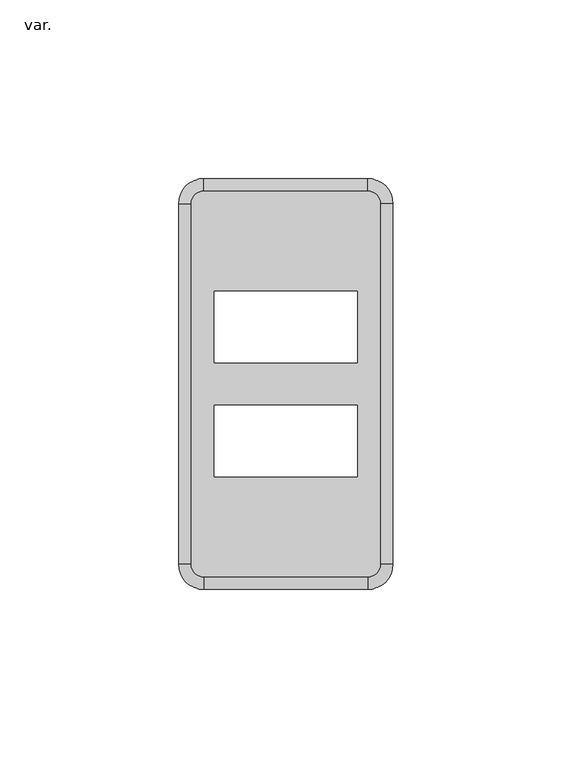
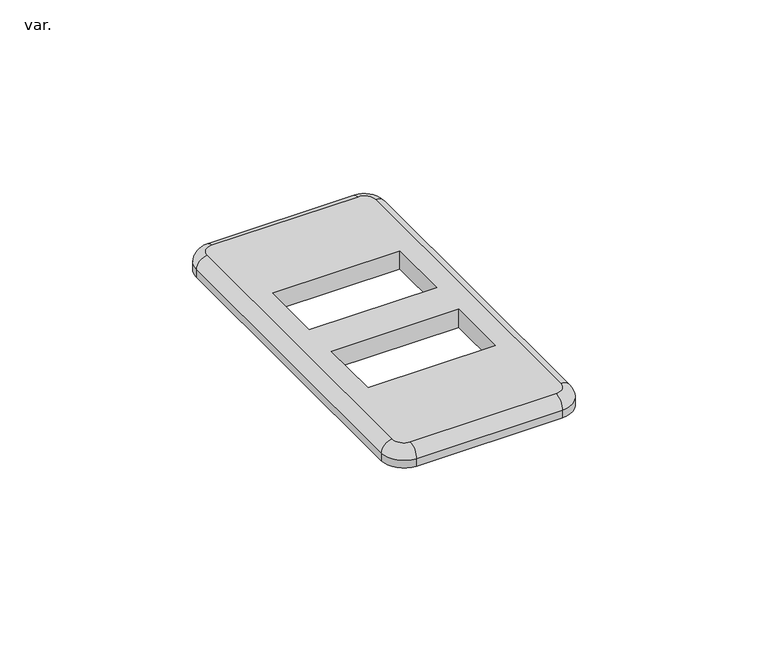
"""IFC4 building model written with IfcOpenShell, lengths in millimetres: pipe fitting geometry, AmancoWavin_ConexõesdoConduite_LinhaEletricaeZNãoUsarElectroAmancoTampa2TSeparadas : var.."""

import ifcopenshell
import ifcopenshell.guid

model = None  # the IFC model being written
_history = None  # IfcOwnerHistory: only IFC2X3 demands one
_inside = {}  # id of a spatial element -> (the spatial element, [elements in it])
_under = {}  # id of a project, library or spatial element -> (it, [spatial elements below it])
_declared = {}  # id of a project -> (the project, [libraries it declares])
_typed = {}  # id of a type object -> (the type object, [elements of that type])
_made_of = {}  # id of a material, layer set ... -> (it, [elements and type objects made of it])


def new_model(schema):
    """Start an empty IFC model of exactly this schema.

    Asked for "IFC4X3", IfcOpenShell would pick the latest addendum, in which some entities
    have other attributes; the version numbers below select the first issue.
    IFC2X3 requires an IfcOwnerHistory on every rooted entity: one is made here for all.
    """
    global model, _history
    if schema == "IFC4X3":
        model = ifcopenshell.file(schema_version=(4, 3, 0, 0))
    else:
        model = ifcopenshell.file(schema=schema)
    _inside.clear()
    _under.clear()
    _declared.clear()
    _typed.clear()
    _made_of.clear()
    _history = None
    if model.schema == "IFC2X3":
        org = make("IfcOrganization", Name="unknown")
        user = make(
            "IfcPersonAndOrganization",
            ThePerson=make("IfcPerson", FamilyName="unknown"),
            TheOrganization=org,
        )
        app = make(
            "IfcApplication",
            ApplicationDeveloper=org,
            Version="unknown",
            ApplicationFullName="unknown",
            ApplicationIdentifier="unknown",
        )
        _history = make(
            "IfcOwnerHistory",
            OwningUser=user,
            OwningApplication=app,
            ChangeAction="ADDED",
            CreationDate=0,
        )
    return model


def make(cls, **values):
    """One entity of the class cls with the attributes given. An attribute that is None is left unset."""
    return model.create_entity(
        cls, **{name: value for name, value in values.items() if value is not None}
    )


def rooted(cls, **values):
    """An entity with a GlobalId (a new one), such as an element, a storey or a relation."""
    return make(cls, GlobalId=ifcopenshell.guid.new(), OwnerHistory=_history, **values)


def si_unit(unit_type, name, prefix=None):
    """IfcSIUnit, for example si_unit("LENGTHUNIT", "METRE", prefix="MILLI")."""
    return make("IfcSIUnit", UnitType=unit_type, Prefix=prefix, Name=name)


def assignment(units):
    """IfcUnitAssignment: the units of a project."""
    return None if units is None else make("IfcUnitAssignment", Units=units)


def point(xyz):
    """IfcCartesianPoint."""
    return None if xyz is None else make("IfcCartesianPoint", Coordinates=xyz)


def direction(xyz):
    """IfcDirection."""
    return None if xyz is None else make("IfcDirection", DirectionRatios=xyz)


def frame(location, z_axis=None, x_axis=None):
    """IfcAxis2Placement3D, a coordinate frame: its origin and axes. An axis left out is left unset."""
    return make(
        "IfcAxis2Placement3D",
        Location=point(location),
        Axis=direction(z_axis),
        RefDirection=direction(x_axis),
    )


def origin():
    """The frame at (0, 0, 0) with its axes left unset."""
    return frame((0.0, 0.0, 0.0))


def place(relative_to, where):
    """IfcLocalPlacement: puts the frame where relative to a parent placement (None: the world)."""
    return make(
        "IfcLocalPlacement", PlacementRelTo=relative_to, RelativePlacement=where
    )


def context(
    kind, dimensions, precision=None, world=None, true_north=None, identifier=None
):
    """IfcGeometricRepresentationContext, for example the 3D "Model" context."""
    return make(
        "IfcGeometricRepresentationContext",
        ContextIdentifier=identifier,
        ContextType=kind,
        CoordinateSpaceDimension=dimensions,
        Precision=precision,
        WorldCoordinateSystem=world,
        TrueNorth=true_north,
    )


def project(units=None, contexts=None):
    """IfcProject with its units and contexts."""
    return rooted(
        "IfcProject",
        Name="project",
        RepresentationContexts=contexts,
        UnitsInContext=assignment(units),
    )


def spatial(cls, under=None, at=None, **own):
    """A site, building, storey or space (cls), placed at a placement, below another one or the project."""
    s = rooted(cls, ObjectPlacement=at, **own)
    if under is not None:
        _under.setdefault(under.id(), (under, []))[1].append(s)
    return s


def circle_curve(where, radius):
    """IfcCircle in the frame where."""
    return make("IfcCircle", Position=where, Radius=radius)


def ellipse_curve(where, semi_axis1, semi_axis2):
    """IfcEllipse in the frame where."""
    return make(
        "IfcEllipse", Position=where, SemiAxis1=semi_axis1, SemiAxis2=semi_axis2
    )


def trimmed(basis, trim1, trim2, sense, master):
    """IfcTrimmedCurve: the piece of a basis curve between two trims."""
    return make(
        "IfcTrimmedCurve",
        BasisCurve=basis,
        Trim1=trim1,
        Trim2=trim2,
        SenseAgreement=sense,
        MasterRepresentation=master,
    )


def shape(context_of_items, identifier, shape_type, items):
    """IfcShapeRepresentation: the items that make up one representation, for example the "Body"."""
    return make(
        "IfcShapeRepresentation",
        ContextOfItems=context_of_items,
        RepresentationIdentifier=identifier,
        RepresentationType=shape_type,
        Items=items,
    )


def source(mapping_origin, context_of_items, identifier, shape_type, items):
    """IfcRepresentationMap: a shape defined once, which mapped items show again and again."""
    return make(
        "IfcRepresentationMap",
        MappingOrigin=mapping_origin,
        MappedRepresentation=shape(context_of_items, identifier, shape_type, items),
    )


def transform(
    local_origin,
    x_axis=None,
    y_axis=None,
    z_axis=None,
    scale=None,
    scale2=None,
    scale3=None,
    uniform=True,
):
    """IfcCartesianTransformationOperator3D, or its non-uniform kind. x_axis, y_axis, z_axis: its Axis1, 2, 3."""
    if uniform:
        return make(
            "IfcCartesianTransformationOperator3D",
            Axis1=direction(x_axis),
            Axis2=direction(y_axis),
            LocalOrigin=point(local_origin),
            Scale=scale,
            Axis3=direction(z_axis),
        )
    return make(
        "IfcCartesianTransformationOperator3DnonUniform",
        Axis1=direction(x_axis),
        Axis2=direction(y_axis),
        LocalOrigin=point(local_origin),
        Scale=scale,
        Axis3=direction(z_axis),
        Scale2=scale2,
        Scale3=scale3,
    )


def mapped(mapping_source, mapping_target):
    """IfcMappedItem: shows the shape of a source again, moved by a transform."""
    return make(
        "IfcMappedItem", MappingSource=mapping_source, MappingTarget=mapping_target
    )


def made_of(thing, what):
    """Note that an element or type object is made of a material, layer set ...; save() writes the relation."""
    if what is not None:
        _made_of.setdefault(what.id(), (what, []))[1].append(thing)
    return thing


def element(
    cls,
    number,
    at=None,
    inside=None,
    cuts=None,
    type_object=None,
    material=None,
    context=None,
    identifier="Body",
    shape_type=None,
    held_by="IfcProductDefinitionShape",
    body=None,
    shapes=None,
    **own,
):
    """One element of the class cls, such as IfcWall. Its Tag is "e" and its number.

    at: its placement. inside: the storey or other place that contains it. cuts: it is an
    opening in that element (IfcRelVoidsElement). A single representation is given by context,
    identifier, shape_type and body (its items); several are given by shapes. held_by: the class
    of the entity that holds the representations. save() writes the other relations.
    """
    e = rooted(cls, Tag="e%d" % number, ObjectPlacement=at, **own)
    if body is not None:
        shapes = [shape(context, identifier, shape_type, body)]
    if shapes is not None:
        e.Representation = make(held_by, Representations=shapes)
    if inside is not None:
        _inside.setdefault(inside.id(), (inside, []))[1].append(e)
    if cuts is not None:
        rooted(
            "IfcRelVoidsElement", RelatingBuildingElement=cuts, RelatedOpeningElement=e
        )
    if type_object is not None:
        _typed.setdefault(type_object.id(), (type_object, []))[1].append(e)
    return made_of(e, material)


def aggregate(whole, parts):
    """IfcRelAggregates: a whole, such as a stair, and the parts it consists of."""
    return rooted("IfcRelAggregates", RelatingObject=whole, RelatedObjects=parts)


def save(model, path):
    """Write the relations noted so far, then the file.

    IfcRelAggregates (storeys below a building ...), IfcRelContainedInSpatialStructure (elements
    in a storey), IfcRelDefinesByType, IfcRelAssociatesMaterial and IfcRelDeclares: one each for
    every whole, place, type object, material and project.
    """
    for whole, parts in _under.values():
        aggregate(whole, parts)
    for where, things in _inside.values():
        rooted(
            "IfcRelContainedInSpatialStructure",
            RelatedElements=things,
            RelatingStructure=where,
        )
    for kind, things in _typed.values():
        rooted("IfcRelDefinesByType", RelatedObjects=things, RelatingType=kind)
    for what, things in _made_of.values():
        rooted("IfcRelAssociatesMaterial", RelatedObjects=things, RelatingMaterial=what)
    for by, libraries in _declared.values():
        rooted("IfcRelDeclares", RelatingContext=by, RelatedDefinitions=libraries)
    model.write(path)


def plane_surface(at):
    """IfcPlane: the flat surface through the origin of the frame at, square to its z axis."""
    return make("IfcPlane", Position=at)


def cylinder_surface(at, radius):
    """IfcCylindricalSurface: all points at the distance radius from the z axis of the frame at."""
    return make("IfcCylindricalSurface", Position=at, Radius=radius)


def revolved_surface(curve, axis_point, axis_direction):
    """IfcSurfaceOfRevolution: the curve turned about the line through axis_point along axis_direction."""
    return make(
        "IfcSurfaceOfRevolution",
        SweptCurve=make("IfcArbitraryOpenProfileDef", ProfileType="CURVE", Curve=curve),
        AxisPosition=make("IfcAxis1Placement", Location=point(axis_point), Axis=direction(axis_direction)),
    )


def advanced_brep(points, edges, surfaces, faces):
    """IfcAdvancedBrep: a solid bounded by faces that lie on surfaces and meet in shared edges.

    An edge is (start, end): straight between two places in points (the first is 0);
    or (start, end, curve); or (start, end, curve, False) where it runs against its curve.
    A face is (place in surfaces, loops), or (place, loops, False) where it looks against
    its surface's normal. A loop lists edges by number (the first is 1), with a minus sign
    where the edge is run from its end to its start. The first loop is the outer one.
    """
    corners = [point(p) for p in points]
    vertices = [make("IfcVertexPoint", VertexGeometry=c) for c in corners]
    made = []
    for start, end, *more in edges:
        made.append(
            make(
                "IfcEdgeCurve",
                EdgeStart=vertices[start],
                EdgeEnd=vertices[end],
                EdgeGeometry=more[0] if more else make("IfcPolyline", Points=[corners[start], corners[end]]),
                SameSense=more[1] if len(more) > 1 else True,
            )
        )
    hull = []
    for where, loops, *sense in faces:
        bounds = []
        for j, loop in enumerate(loops):
            ring = [make("IfcOrientedEdge", EdgeElement=made[abs(k) - 1], Orientation=k > 0) for k in loop]
            bounds.append(
                make(
                    "IfcFaceOuterBound" if j == 0 else "IfcFaceBound",
                    Bound=make("IfcEdgeLoop", EdgeList=ring),
                    Orientation=True,
                )
            )
        hull.append(make("IfcAdvancedFace", Bounds=bounds, FaceSurface=surfaces[where], SameSense=sense[0] if sense else True))
    return make("IfcAdvancedBrep", Outer=make("IfcClosedShell", CfsFaces=hull))


def var_3d4e0ce0(model_context):
    return source(origin(), model_context, "Body", "AdvancedBrep", [
        advanced_brep(
        [(-26.5, -50.5, 6.0), (-23.0, -54.0, 6.0), (23.0, -54.0, 6.0), (26.5, -50.5, 6.0), (26.5, 50.5, 6.0), (23.0, 54.0, 6.0), (-23.0, 54.0, 6.0), (-26.5, 50.5, 6.0), (20.0, 26.0, 6.0), (20.0, 6.0, 6.0), (-20.0, 6.0, 6.0), (-20.0, 26.0, 6.0), (20.0, -6.0, 6.0), (20.0, -26.0, 6.0), (-20.0, -26.0, 6.0), (-20.0, -6.0, 6.0), (23.0, 57.5, 0.0), (30.0, 50.5, 0.0), (30.0, -50.5, 0.0), (23.0, -57.5, 0.0), (-23.0, -57.5, 0.0), (-30.0, -50.5, 0.0), (-30.0, 50.5, 0.0), (-23.0, 57.5, 0.0), (20.0, 26.0, 0.0), (-20.0, 26.0, 0.0), (-20.0, 6.0, 0.0), (20.0, 6.0, 0.0), (20.0, -6.0, 0.0), (-20.0, -6.0, 0.0), (-20.0, -26.0, 0.0), (20.0, -26.0, 0.0), (-23.0, 57.5, 2.5), (23.0, 57.5, 2.5), (-30.0, 50.5, 2.5000018), (-30.0, -50.5, 2.5000018), (-23.0, -57.5, 2.5000018), (23.0, -57.5, 2.5), (30.0, -50.5, 2.5000018), (30.0, 50.5, 2.5)],
        [
            (0, 1, circle_curve(frame((-23.0, -50.5, 6.0), z_axis=(0.0, 0.0, 1.0), x_axis=(-1.0, 0.0, 0.0)), 3.5)),
            (1, 2),
            (2, 3, circle_curve(frame((23.0, -50.5, 6.0), z_axis=(0.0, 0.0, 1.0), x_axis=(0.0, -1.0, 0.0)), 3.5)),
            (3, 4),
            (4, 5, circle_curve(frame((23.0, 50.5, 6.0), z_axis=(0.0, 0.0, 1.0), x_axis=(1.0, 0.0, 0.0)), 3.5)),
            (5, 6),
            (6, 7, circle_curve(frame((-23.0, 50.5, 6.0), z_axis=(0.0, 0.0, 1.0), x_axis=(0.0, 1.0, 0.0)), 3.5)),
            (7, 0),
            (8, 9),
            (9, 10),
            (10, 11),
            (11, 8),
            (12, 13),
            (13, 14),
            (14, 15),
            (15, 12),
            (16, 17, circle_curve(frame((23.0, 50.5, 0.0), z_axis=(0.0, 0.0, -1.0), x_axis=(1.0, 0.0, 0.0)), 7.0)),
            (17, 18),
            (18, 19, circle_curve(frame((23.0, -50.5, 0.0), z_axis=(0.0, 0.0, -1.0), x_axis=(1.0, 0.0, 0.0)), 7.0)),
            (19, 20),
            (20, 21, circle_curve(frame((-23.0, -50.5, 0.0), z_axis=(0.0, 0.0, -1.0), x_axis=(1.0, 0.0, 0.0)), 7.0)),
            (21, 22),
            (22, 23, circle_curve(frame((-23.0, 50.5, 0.0), z_axis=(0.0, 0.0, -1.0), x_axis=(1.0, 0.0, 0.0)), 7.0)),
            (23, 16),
            (24, 25),
            (25, 26),
            (26, 27),
            (27, 24),
            (28, 29),
            (29, 30),
            (30, 31),
            (31, 28),
            (23, 32),
            (32, 33),
            (33, 16),
            (22, 34),
            (34, 32, circle_curve(frame((-23.0, 50.5, 2.5), z_axis=(0.0, 0.0, -1.0), x_axis=(1.0, 0.0, 0.0)), 7.0)),
            (21, 35),
            (35, 34),
            (20, 36),
            (36, 35, circle_curve(frame((-23.0, -50.5, 2.5), z_axis=(0.0, 0.0, -1.0), x_axis=(1.0, 0.0, 0.0)), 7.0)),
            (19, 37),
            (37, 36),
            (18, 38),
            (38, 37, circle_curve(frame((23.0, -50.5, 2.5), z_axis=(0.0, 0.0, -1.0), x_axis=(1.0, 0.0, 0.0)), 7.0)),
            (17, 39),
            (39, 38),
            (33, 39, circle_curve(frame((23.0, 50.5, 2.5), z_axis=(0.0, 0.0, -1.0), x_axis=(1.0, 0.0, 0.0)), 7.0)),
            (36, 1, circle_curve(frame((-23.0, -54.0, 2.5), z_axis=(-1.0, 0.0, 0.0), x_axis=(0.0, 1.0, 0.0)), 3.5)),
            (0, 35, circle_curve(frame((-26.5, -50.5, 2.5), z_axis=(0.0, -1.0, 0.0), x_axis=(1.0, 0.0, 0.0)), 3.5)),
            (37, 2, circle_curve(frame((23.0, -54.0, 2.5), z_axis=(-1.0, 0.0, 0.0), x_axis=(0.0, 1.0, 0.0)), 3.5)),
            (38, 3, circle_curve(frame((26.5, -50.5, 2.5), z_axis=(0.0, -1.0, 0.0), x_axis=(-1.0, 0.0, 0.0)), 3.5)),
            (39, 4, circle_curve(frame((26.5, 50.5, 2.5), z_axis=(0.0, -1.0, 0.0), x_axis=(-1.0, 0.0, 0.0)), 3.5)),
            (33, 5, circle_curve(frame((23.0, 54.0, 2.5), z_axis=(1.0, 0.0, 0.0), x_axis=(0.0, -1.0, 0.0)), 3.5)),
            (32, 6, circle_curve(frame((-23.0, 54.0, 2.5), z_axis=(1.0, 0.0, 0.0), x_axis=(0.0, -1.0, 0.0)), 3.5)),
            (34, 7, circle_curve(frame((-26.5, 50.5, 2.5), z_axis=(0.0, 1.0, 0.0), x_axis=(1.0, 0.0, 0.0)), 3.5)),
            (8, 24),
            (27, 9),
            (26, 10),
            (25, 11),
            (12, 28),
            (31, 13),
            (30, 14),
            (29, 15),
        ],
        [
            plane_surface(frame((-23.0, 57.5, 6.0), z_axis=(0.0, 0.0, 1.0), x_axis=(-1.0, 0.0, 0.0))),
            plane_surface(frame((-23.0, 57.5, 0.0), z_axis=(0.0, 0.0, -1.0), x_axis=(1.0, 0.0, 0.0))),
            plane_surface(frame((23.0, 57.5, 6.0), z_axis=(0.0, 1.0, 0.0), x_axis=(0.0, 0.0, -1.0))),
            cylinder_surface(frame((-23.0, 50.5, 0.0), z_axis=(0.0, 0.0, 1.0), x_axis=(1.0, 0.0, 0.0)), 7.0),
            plane_surface(frame((-30.0, 50.5, 6.0), z_axis=(-1.0, 0.0, 0.0), x_axis=(0.0, 0.0, -1.0))),
            cylinder_surface(frame((-23.0, -50.5, 0.0), z_axis=(0.0, 0.0, 1.0), x_axis=(1.0, 0.0, 0.0)), 7.0),
            plane_surface(frame((-23.0, -57.5, 6.0), z_axis=(0.0, -1.0, 0.0), x_axis=(0.0, 0.0, -1.0))),
            cylinder_surface(frame((23.0, -50.5, 0.0), z_axis=(0.0, 0.0, 1.0), x_axis=(1.0, 0.0, 0.0)), 7.0),
            plane_surface(frame((30.0, -50.5, 6.0), z_axis=(1.0, 0.0, 0.0), x_axis=(0.0, 0.0, -1.0))),
            cylinder_surface(frame((23.0, 50.5, 0.0), z_axis=(0.0, 0.0, 1.0), x_axis=(1.0, 0.0, 0.0)), 7.0),
            revolved_surface(trimmed(ellipse_curve(frame((-26.5, -50.5, 2.5), z_axis=(0.0, 1.0, 0.0), x_axis=(1.0, 0.0, 0.0)), 3.5, 3.5), [point((-30.0, -50.5, 2.5))], [point((-26.5, -50.5, 6.0))], True, "CARTESIAN"), (-23.0, -50.5, 6.0), (0.0, 0.0, 1.0)),
            cylinder_surface(frame((-23.0, -54.0, 2.5), z_axis=(1.0, 0.0, 0.0), x_axis=(0.0, 1.0, 0.0)), 3.5),
            revolved_surface(trimmed(ellipse_curve(frame((23.0, -54.0, 2.5), z_axis=(-1.0, 0.0, 0.0), x_axis=(0.0, 1.0, 0.0)), 3.5, 3.5), [point((23.0, -57.5, 2.5))], [point((23.0, -54.0, 6.0))], True, "CARTESIAN"), (23.0, -50.5, 6.0), (0.0, 0.0, 1.0)),
            cylinder_surface(frame((26.5, -50.5, 2.5), z_axis=(0.0, 1.0, 0.0), x_axis=(-1.0, 0.0, 0.0)), 3.5),
            revolved_surface(trimmed(ellipse_curve(frame((26.5, 50.5, 2.5), z_axis=(0.0, -1.0, 0.0), x_axis=(-1.0, 0.0, 0.0)), 3.5, 3.5), [point((30.0, 50.5, 2.5))], [point((26.5, 50.5, 6.0))], True, "CARTESIAN"), (23.0, 50.5, 6.0), (0.0, 0.0, 1.0)),
            cylinder_surface(frame((23.0, 54.0, 2.5), z_axis=(-1.0, 0.0, 0.0), x_axis=(0.0, -1.0, 0.0)), 3.5),
            revolved_surface(trimmed(ellipse_curve(frame((-23.0, 54.0, 2.5), z_axis=(1.0, 0.0, 0.0), x_axis=(0.0, -1.0, 0.0)), 3.5, 3.5), [point((-23.0, 57.5, 2.5))], [point((-23.0, 54.0, 6.0))], True, "CARTESIAN"), (-23.0, 50.5, 6.0), (0.0, 0.0, 1.0)),
            cylinder_surface(frame((-26.5, 50.5, 2.5), z_axis=(0.0, -1.0, 0.0), x_axis=(1.0, 0.0, 0.0)), 3.5),
            plane_surface(frame((20.0, 26.0, 6.0), z_axis=(-1.0, 0.0, 0.0), x_axis=(0.0, 0.0, -1.0))),
            plane_surface(frame((20.0, 6.0, 6.0), z_axis=(0.0, 1.0, 0.0), x_axis=(0.0, 0.0, -1.0))),
            plane_surface(frame((-20.0, 6.0, 6.0), z_axis=(1.0, 0.0, 0.0), x_axis=(0.0, 0.0, -1.0))),
            plane_surface(frame((-20.0, 26.0, 6.0), z_axis=(0.0, -1.0, 0.0), x_axis=(0.0, 0.0, -1.0))),
            plane_surface(frame((20.0, -6.0, 6.0), z_axis=(-1.0, 0.0, 0.0), x_axis=(0.0, 0.0, -1.0))),
            plane_surface(frame((20.0, -26.0, 6.0), z_axis=(0.0, 1.0, 0.0), x_axis=(0.0, 0.0, -1.0))),
            plane_surface(frame((-20.0, -26.0, 6.0), z_axis=(1.0, 0.0, 0.0), x_axis=(0.0, 0.0, -1.0))),
            plane_surface(frame((-20.0, -6.0, 6.0), z_axis=(0.0, -1.0, 0.0), x_axis=(0.0, 0.0, -1.0))),
        ],
        [
            (0, [[1, 2, 3, 4, 5, 6, 7, 8], [9, 10, 11, 12], [13, 14, 15, 16]]),
            (1, [[17, 18, 19, 20, 21, 22, 23, 24], [25, 26, 27, 28], [29, 30, 31, 32]]),
            (2, [[-24, 33, 34, 35]]),
            (3, [[-23, 36, 37, -33]]),
            (4, [[-22, 38, 39, -36]]),
            (5, [[-21, 40, 41, -38]]),
            (6, [[-20, 42, 43, -40]]),
            (7, [[-19, 44, 45, -42]]),
            (8, [[-18, 46, 47, -44]]),
            (9, [[-17, -35, 48, -46]]),
            (10, [[49, -1, 50, -41]]),
            (11, [[-49, -43, 51, -2]]),
            (12, [[-51, -45, 52, -3]]),
            (13, [[-52, -47, 53, -4]]),
            (14, [[-53, -48, 54, -5]]),
            (15, [[-54, -34, 55, -6]]),
            (16, [[-55, -37, 56, -7]]),
            (17, [[-50, -8, -56, -39]]),
            (18, [[-9, 57, -28, 58]]),
            (19, [[-10, -58, -27, 59]]),
            (20, [[-11, -59, -26, 60]]),
            (21, [[-12, -60, -25, -57]]),
            (22, [[-13, 61, -32, 62]]),
            (23, [[-14, -62, -31, 63]]),
            (24, [[-15, -63, -30, 64]]),
            (25, [[-16, -64, -29, -61]]),
        ],
    ),
    ])


if __name__ == "__main__":
    model = new_model("IFC4")
    model_context = context("Model", 3, world=origin())
    ifc_project = project(units=[si_unit("LENGTHUNIT", "METRE", prefix="MILLI")], contexts=[model_context])
    site = spatial("IfcSite", under=ifc_project)
    building = spatial("IfcBuilding", under=site)
    placement = place(None, origin())
    var_shape = var_3d4e0ce0(model_context)
    element("IfcPipeFitting", 1, ObjectType="AmancoWavin_ConexõesdoConduite_LinhaEletricaeZNãoUsarElectroAmancoTampa2TSeparadas : var.", at=placement, inside=building, context=model_context, shape_type="MappedRepresentation", body=[
        mapped(var_shape, transform((0.0, 0.0, 0.0), x_axis=(1.0, 0.0, 0.0), y_axis=(0.0, 1.0, 0.0), z_axis=(0.0, 0.0, 1.0))),
    ])
    save(model, "model.ifc")
